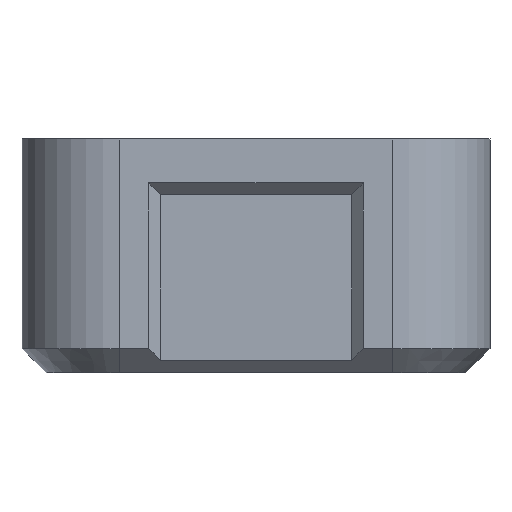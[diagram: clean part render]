
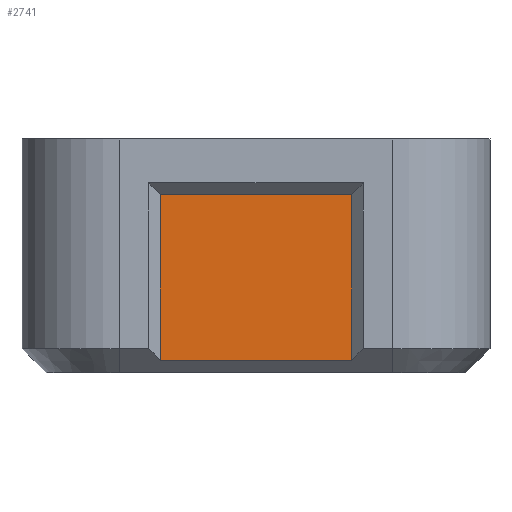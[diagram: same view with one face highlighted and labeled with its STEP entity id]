
A CAD part, front view. The second image highlights one B-rep face of the part: STEP entity #2741.
In plain terms, the highlighted planar face has unit normal (0, -1, 0).
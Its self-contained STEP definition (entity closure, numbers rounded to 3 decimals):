
#44 = PLANE('',#45);
#45 = AXIS2_PLACEMENT_3D('',#46,#47,#48);
#46 = CARTESIAN_POINT('',(38.,1.25,1.25));
#47 = DIRECTION('',(0.,-0.707,-0.707));
#48 = DIRECTION('',(-1.,-0.,0.));
#178 = PLANE('',#179);
#179 = AXIS2_PLACEMENT_3D('',#180,#181,#182);
#180 = CARTESIAN_POINT('',(33.8,1.2,-2.));
#181 = DIRECTION('',(0.707,0.707,-0.));
#182 = DIRECTION('',(0.707,-0.707,0.));
#204 = PLANE('',#205);
#205 = AXIS2_PLACEMENT_3D('',#206,#207,#208);
#206 = CARTESIAN_POINT('',(11.,1.2,18.3));
#207 = DIRECTION('',(0.,-0.707,-0.707));
#208 = DIRECTION('',(0.,-0.707,0.707));
#228 = PLANE('',#229);
#229 = AXIS2_PLACEMENT_3D('',#230,#231,#232);
#230 = CARTESIAN_POINT('',(12.,-1.,-2.));
#231 = DIRECTION('',(-0.707,0.707,0.));
#232 = DIRECTION('',(0.707,0.707,0.));
#270 = VERTEX_POINT('',#271);
#271 = CARTESIAN_POINT('',(33.8,1.2,1.3));
#290 = EDGE_CURVE('',#270,#291,#293,.T.);
#291 = VERTEX_POINT('',#292);
#292 = CARTESIAN_POINT('',(14.2,1.2,1.3));
#293 = SURFACE_CURVE('',#294,(#298,#304),.PCURVE_S1.);
#294 = LINE('',#295,#296);
#295 = CARTESIAN_POINT('',(24.5,1.2,1.3));
#296 = VECTOR('',#297,1.);
#297 = DIRECTION('',(-1.,-0.,0.));
#298 = PCURVE('',#44,#299);
#299 = DEFINITIONAL_REPRESENTATION('',(#300),#303);
#300 = B_SPLINE_CURVE_WITH_KNOTS('',1,(#301,#302),.UNSPECIFIED.,.F.,.F.,
  (2,2),(-9.3,10.3),.PIECEWISE_BEZIER_KNOTS.);
#301 = CARTESIAN_POINT('',(4.2,-0.071));
#302 = CARTESIAN_POINT('',(23.8,-0.071));
#303 = ( GEOMETRIC_REPRESENTATION_CONTEXT(2) 
PARAMETRIC_REPRESENTATION_CONTEXT() REPRESENTATION_CONTEXT('2D SPACE',''
  ) );
#304 = PCURVE('',#305,#310);
#305 = PLANE('',#306);
#306 = AXIS2_PLACEMENT_3D('',#307,#308,#309);
#307 = CARTESIAN_POINT('',(11.,1.2,-1.));
#308 = DIRECTION('',(0.,-1.,0.));
#309 = DIRECTION('',(0.,0.,1.));
#310 = DEFINITIONAL_REPRESENTATION('',(#311),#314);
#311 = B_SPLINE_CURVE_WITH_KNOTS('',1,(#312,#313),.UNSPECIFIED.,.F.,.F.,
  (2,2),(-9.3,10.3),.PIECEWISE_BEZIER_KNOTS.);
#312 = CARTESIAN_POINT('',(2.3,-22.8));
#313 = CARTESIAN_POINT('',(2.3,-3.2));
#314 = ( GEOMETRIC_REPRESENTATION_CONTEXT(2) 
PARAMETRIC_REPRESENTATION_CONTEXT() REPRESENTATION_CONTEXT('2D SPACE',''
  ) );
#391 = EDGE_CURVE('',#291,#392,#394,.T.);
#392 = VERTEX_POINT('',#393);
#393 = CARTESIAN_POINT('',(14.2,1.2,18.3));
#394 = SURFACE_CURVE('',#395,(#399,#406),.PCURVE_S1.);
#395 = LINE('',#396,#397);
#396 = CARTESIAN_POINT('',(14.2,1.2,-2.));
#397 = VECTOR('',#398,1.);
#398 = DIRECTION('',(0.,0.,1.));
#399 = PCURVE('',#228,#400);
#400 = DEFINITIONAL_REPRESENTATION('',(#401),#405);
#401 = LINE('',#402,#403);
#402 = CARTESIAN_POINT('',(3.111,0.));
#403 = VECTOR('',#404,1.);
#404 = DIRECTION('',(0.,-1.));
#405 = ( GEOMETRIC_REPRESENTATION_CONTEXT(2) 
PARAMETRIC_REPRESENTATION_CONTEXT() REPRESENTATION_CONTEXT('2D SPACE',''
  ) );
#406 = PCURVE('',#305,#407);
#407 = DEFINITIONAL_REPRESENTATION('',(#408),#412);
#408 = LINE('',#409,#410);
#409 = CARTESIAN_POINT('',(-1.,-3.2));
#410 = VECTOR('',#411,1.);
#411 = DIRECTION('',(1.,0.));
#412 = ( GEOMETRIC_REPRESENTATION_CONTEXT(2) 
PARAMETRIC_REPRESENTATION_CONTEXT() REPRESENTATION_CONTEXT('2D SPACE',''
  ) );
#440 = EDGE_CURVE('',#392,#441,#443,.T.);
#441 = VERTEX_POINT('',#442);
#442 = CARTESIAN_POINT('',(33.8,1.2,18.3));
#443 = SURFACE_CURVE('',#444,(#448,#455),.PCURVE_S1.);
#444 = LINE('',#445,#446);
#445 = CARTESIAN_POINT('',(11.,1.2,18.3));
#446 = VECTOR('',#447,1.);
#447 = DIRECTION('',(1.,0.,0.));
#448 = PCURVE('',#204,#449);
#449 = DEFINITIONAL_REPRESENTATION('',(#450),#454);
#450 = LINE('',#451,#452);
#451 = CARTESIAN_POINT('',(0.,0.));
#452 = VECTOR('',#453,1.);
#453 = DIRECTION('',(0.,-1.));
#454 = ( GEOMETRIC_REPRESENTATION_CONTEXT(2) 
PARAMETRIC_REPRESENTATION_CONTEXT() REPRESENTATION_CONTEXT('2D SPACE',''
  ) );
#455 = PCURVE('',#305,#456);
#456 = DEFINITIONAL_REPRESENTATION('',(#457),#461);
#457 = LINE('',#458,#459);
#458 = CARTESIAN_POINT('',(19.3,0.));
#459 = VECTOR('',#460,1.);
#460 = DIRECTION('',(0.,-1.));
#461 = ( GEOMETRIC_REPRESENTATION_CONTEXT(2) 
PARAMETRIC_REPRESENTATION_CONTEXT() REPRESENTATION_CONTEXT('2D SPACE',''
  ) );
#486 = EDGE_CURVE('',#270,#441,#487,.T.);
#487 = SURFACE_CURVE('',#488,(#492,#499),.PCURVE_S1.);
#488 = LINE('',#489,#490);
#489 = CARTESIAN_POINT('',(33.8,1.2,-2.));
#490 = VECTOR('',#491,1.);
#491 = DIRECTION('',(0.,0.,1.));
#492 = PCURVE('',#178,#493);
#493 = DEFINITIONAL_REPRESENTATION('',(#494),#498);
#494 = LINE('',#495,#496);
#495 = CARTESIAN_POINT('',(0.,0.));
#496 = VECTOR('',#497,1.);
#497 = DIRECTION('',(0.,-1.));
#498 = ( GEOMETRIC_REPRESENTATION_CONTEXT(2) 
PARAMETRIC_REPRESENTATION_CONTEXT() REPRESENTATION_CONTEXT('2D SPACE',''
  ) );
#499 = PCURVE('',#305,#500);
#500 = DEFINITIONAL_REPRESENTATION('',(#501),#505);
#501 = LINE('',#502,#503);
#502 = CARTESIAN_POINT('',(-1.,-22.8));
#503 = VECTOR('',#504,1.);
#504 = DIRECTION('',(1.,0.));
#505 = ( GEOMETRIC_REPRESENTATION_CONTEXT(2) 
PARAMETRIC_REPRESENTATION_CONTEXT() REPRESENTATION_CONTEXT('2D SPACE',''
  ) );
#2741 = ADVANCED_FACE('',(#2742),#305,.T.);
#2742 = FACE_BOUND('',#2743,.T.);
#2743 = EDGE_LOOP('',(#2744,#2745,#2746,#2747));
#2744 = ORIENTED_EDGE('',*,*,#391,.F.);
#2745 = ORIENTED_EDGE('',*,*,#290,.F.);
#2746 = ORIENTED_EDGE('',*,*,#486,.T.);
#2747 = ORIENTED_EDGE('',*,*,#440,.F.);
